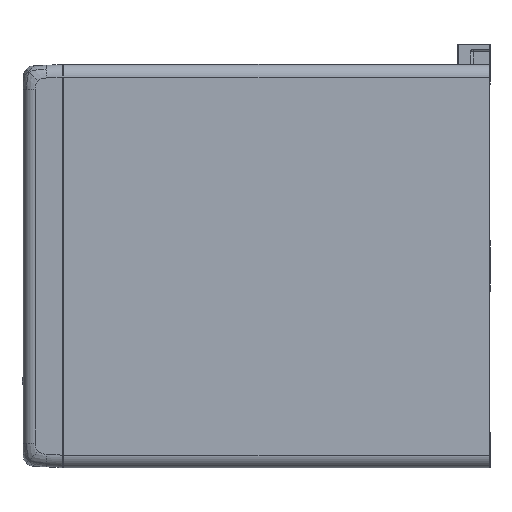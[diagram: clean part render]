
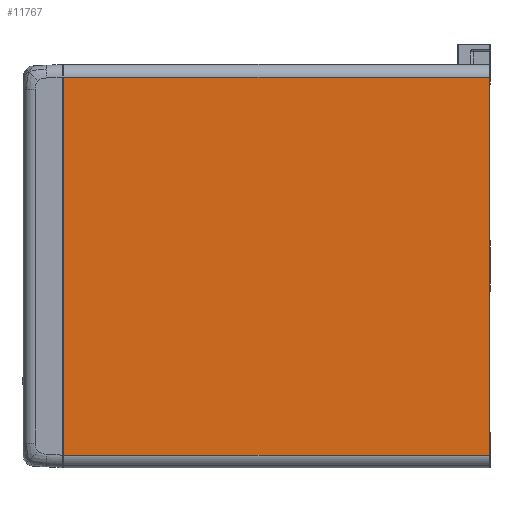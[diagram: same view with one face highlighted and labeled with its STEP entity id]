
A CAD part, left-side view. The second image highlights one B-rep face of the part: STEP entity #11767.
In plain terms, the highlighted planar face has unit normal (-1, 0, 0).
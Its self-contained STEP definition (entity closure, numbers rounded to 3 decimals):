
#11658=CARTESIAN_POINT('',(0.,169.,155.0));
#11659=VERTEX_POINT('',#11658);
#11709=CARTESIAN_POINT('',(0.,169.,5.));
#11710=VERTEX_POINT('',#11709);
#11718=CARTESIAN_POINT('',(0.,169.,155.0));
#11719=DIRECTION('',(0.0,0.0,-1.0));
#11720=VECTOR('',#11719,150.0);
#11721=LINE('',#11718,#11720);
#11722=EDGE_CURVE('',#11659,#11710,#11721,.T.);
#11737=CARTESIAN_POINT('',(0.,0.,160.0));
#11738=DIRECTION('',(-1.0,0.0,0.0));
#11739=DIRECTION('',(0.0,-1.0,0.0));
#11740=AXIS2_PLACEMENT_3D('',#11737,#11738,#11739);
#11741=PLANE('',#11740);
#11742=CARTESIAN_POINT('',(0.,0.,155.));
#11743=VERTEX_POINT('',#11742);
#11744=CARTESIAN_POINT('',(0.,0.,155.));
#11745=DIRECTION('',(0.0,1.0,0.0));
#11746=VECTOR('',#11745,169.);
#11747=LINE('',#11744,#11746);
#11748=EDGE_CURVE('',#11743,#11659,#11747,.T.);
#11749=ORIENTED_EDGE('',*,*,#11748,.T.);
#11750=ORIENTED_EDGE('',*,*,#11722,.T.);
#11751=CARTESIAN_POINT('',(0.,0.,5.0));
#11752=VERTEX_POINT('',#11751);
#11753=CARTESIAN_POINT('',(0.,0.,5.0));
#11754=DIRECTION('',(0.0,1.0,0.0));
#11755=VECTOR('',#11754,169.);
#11756=LINE('',#11753,#11755);
#11757=EDGE_CURVE('',#11752,#11710,#11756,.T.);
#11758=ORIENTED_EDGE('',*,*,#11757,.F.);
#11759=CARTESIAN_POINT('',(0.,0.,5.0));
#11760=DIRECTION('',(0.0,0.0,1.0));
#11761=VECTOR('',#11760,150.);
#11762=LINE('',#11759,#11761);
#11763=EDGE_CURVE('',#11752,#11743,#11762,.T.);
#11764=ORIENTED_EDGE('',*,*,#11763,.T.);
#11765=EDGE_LOOP('',(#11749,#11750,#11758,#11764));
#11766=FACE_OUTER_BOUND('',#11765,.T.);
#11767=ADVANCED_FACE('',(#11766),#11741,.T.);
